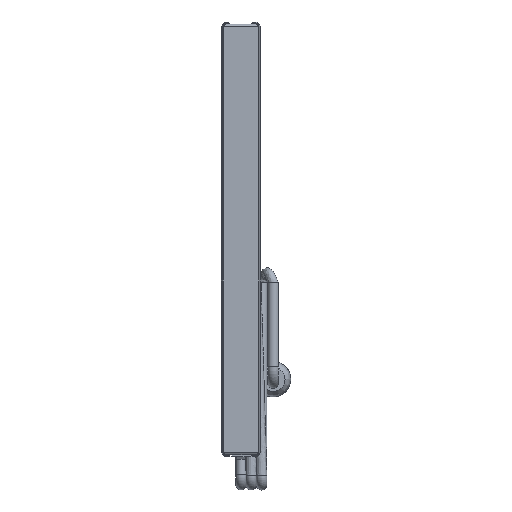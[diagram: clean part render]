
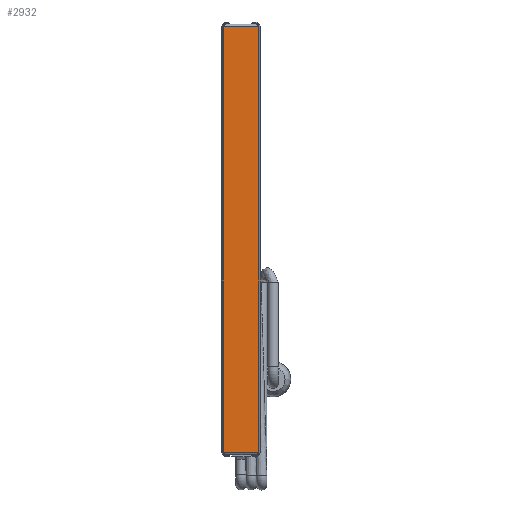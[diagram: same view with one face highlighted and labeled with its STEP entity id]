
A CAD part, front view. The second image highlights one B-rep face of the part: STEP entity #2932.
In plain terms, the highlighted planar face has unit normal (0, -1, 0).
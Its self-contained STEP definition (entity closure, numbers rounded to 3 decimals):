
#2654=CARTESIAN_POINT('',(18.421,0.,444.5));
#2655=VERTEX_POINT('',#2654);
#2663=CARTESIAN_POINT('',(18.421,0.,0.0));
#2664=VERTEX_POINT('',#2663);
#2665=CARTESIAN_POINT('',(18.421,0.0,444.5));
#2666=DIRECTION('',(0.0,0.0,-1.0));
#2667=VECTOR('',#2666,444.5);
#2668=LINE('',#2665,#2667);
#2669=EDGE_CURVE('',#2655,#2664,#2668,.T.);
#2695=CARTESIAN_POINT('',(-18.421,0.,0.0));
#2696=VERTEX_POINT('',#2695);
#2697=CARTESIAN_POINT('',(-18.421,0.,0.0));
#2698=DIRECTION('',(1.0,0.0,0.0));
#2699=VECTOR('',#2698,36.842);
#2700=LINE('',#2697,#2699);
#2701=EDGE_CURVE('',#2696,#2664,#2700,.T.);
#2909=CARTESIAN_POINT('',(18.735,0.0,0.0));
#2910=DIRECTION('',(0.0,-1.0,0.0));
#2911=DIRECTION('',(0.0,0.0,-1.0));
#2912=AXIS2_PLACEMENT_3D('',#2909,#2910,#2911);
#2913=PLANE('',#2912);
#2914=ORIENTED_EDGE('',*,*,#2669,.F.);
#2915=CARTESIAN_POINT('',(-18.421,0.,444.5));
#2916=VERTEX_POINT('',#2915);
#2917=CARTESIAN_POINT('',(18.421,0.,444.5));
#2918=DIRECTION('',(-1.0,0.0,0.0));
#2919=VECTOR('',#2918,36.842);
#2920=LINE('',#2917,#2919);
#2921=EDGE_CURVE('',#2655,#2916,#2920,.T.);
#2922=ORIENTED_EDGE('',*,*,#2921,.T.);
#2923=CARTESIAN_POINT('',(-18.421,0.0,0.0));
#2924=DIRECTION('',(0.0,0.0,1.0));
#2925=VECTOR('',#2924,444.5);
#2926=LINE('',#2923,#2925);
#2927=EDGE_CURVE('',#2696,#2916,#2926,.T.);
#2928=ORIENTED_EDGE('',*,*,#2927,.F.);
#2929=ORIENTED_EDGE('',*,*,#2701,.T.);
#2930=EDGE_LOOP('',(#2914,#2922,#2928,#2929));
#2931=FACE_OUTER_BOUND('',#2930,.T.);
#2932=ADVANCED_FACE('',(#2931),#2913,.T.);
